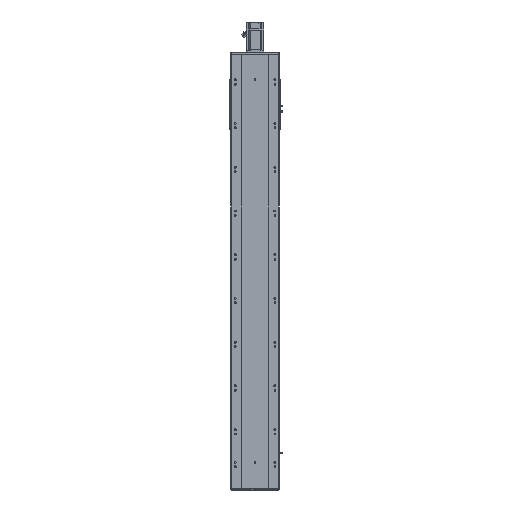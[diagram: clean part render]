
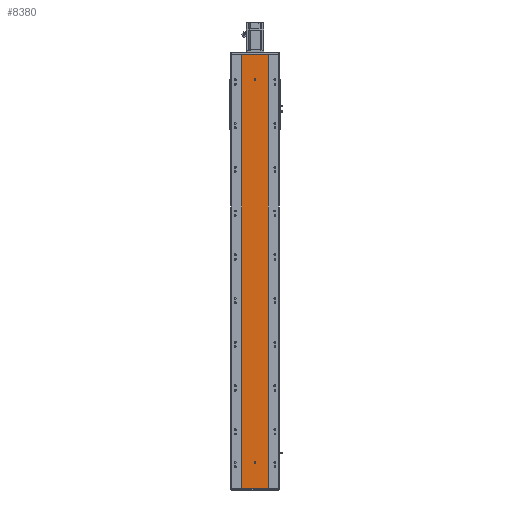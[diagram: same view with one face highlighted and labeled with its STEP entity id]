
A CAD part, front view. The second image highlights one B-rep face of the part: STEP entity #8380.
In plain terms, the highlighted planar face has unit normal (0, -1, 0).
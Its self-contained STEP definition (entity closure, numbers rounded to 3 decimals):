
#970 = CARTESIAN_POINT ( 'NONE',  ( 4., 0., 116.5 ) ) ;
#1834 = DIRECTION ( 'NONE',  ( 0., 0., 1. ) ) ;
#4101 = FACE_OUTER_BOUND ( 'NONE', #61796, .T. ) ;
#5149 = DIRECTION ( 'NONE',  ( 0., 0., -1. ) ) ;
#5590 = DIRECTION ( 'NONE',  ( 1., 0., 0. ) ) ;
#5859 = EDGE_CURVE ( 'NONE', #74085, #37022, #48317, .T. ) ;
#7005 = VERTEX_POINT ( 'NONE', #38565 ) ;
#7479 = VECTOR ( 'NONE', #56387, 1000. ) ;
#7788 = LINE ( 'NONE', #51695, #63812 ) ;
#8089 = EDGE_CURVE ( 'NONE', #44158, #9755, #46172, .T. ) ;
#8380 = ADVANCED_FACE ( 'NONE', ( #61981, #57298, #4101 ), #19830, .F. ) ;
#8423 = AXIS2_PLACEMENT_3D ( 'NONE', #35438, #17692, #41706 ) ;
#9224 = CARTESIAN_POINT ( 'NONE',  ( -4., 0., 119.5 ) ) ;
#9755 = VERTEX_POINT ( 'NONE', #32650 ) ;
#9949 = EDGE_LOOP ( 'NONE', ( #55175, #24450, #20601, #43583, #15801 ) ) ;
#10661 = CARTESIAN_POINT ( 'NONE',  ( -4., 0., 116.5 ) ) ;
#13322 = VERTEX_POINT ( 'NONE', #16173 ) ;
#13812 = DIRECTION ( 'NONE',  ( 0., 0., -1. ) ) ;
#15329 = EDGE_CURVE ( 'NONE', #37022, #74085, #36285, .T. ) ;
#15510 = LINE ( 'NONE', #59562, #53751 ) ;
#15801 = ORIENTED_EDGE ( 'NONE', *, *, #42321, .F. ) ;
#16173 = CARTESIAN_POINT ( 'NONE',  ( -60., 0., 0. ) ) ;
#16261 = LINE ( 'NONE', #64528, #26509 ) ;
#16839 = CARTESIAN_POINT ( 'NONE',  ( 60., 0., 0. ) ) ;
#17648 = AXIS2_PLACEMENT_3D ( 'NONE', #24654, #72180, #43439 ) ;
#17692 = DIRECTION ( 'NONE',  ( 0., -1., 0. ) ) ;
#19564 = CARTESIAN_POINT ( 'NONE',  ( -60., 0., 1982. ) ) ;
#19830 = PLANE ( 'NONE',  #26779 ) ;
#20601 = ORIENTED_EDGE ( 'NONE', *, *, #8089, .F. ) ;
#20878 = ORIENTED_EDGE ( 'NONE', *, *, #43534, .T. ) ;
#24450 = ORIENTED_EDGE ( 'NONE', *, *, #74762, .F. ) ;
#24654 = CARTESIAN_POINT ( 'NONE',  ( 0., 0., 1868. ) ) ;
#26016 = DIRECTION ( 'NONE',  ( 0., 0., -1. ) ) ;
#26509 = VECTOR ( 'NONE', #70274, 1000. ) ;
#26779 = AXIS2_PLACEMENT_3D ( 'NONE', #19564, #36811, #1834 ) ;
#29020 = DIRECTION ( 'NONE',  ( 0., -1., 0. ) ) ;
#32650 = CARTESIAN_POINT ( 'NONE',  ( 0., 0., 112.5 ) ) ;
#33046 = CARTESIAN_POINT ( 'NONE',  ( 0., 0., 119.5 ) ) ;
#33628 = ORIENTED_EDGE ( 'NONE', *, *, #5859, .F. ) ;
#33818 = EDGE_CURVE ( 'NONE', #37485, #40932, #70633, .T. ) ;
#35438 = CARTESIAN_POINT ( 'NONE',  ( 0., 0., 116.5 ) ) ;
#36285 = CIRCLE ( 'NONE', #59589, 4. ) ;
#36331 = CIRCLE ( 'NONE', #64671, 4. ) ;
#36811 = DIRECTION ( 'NONE',  ( 0., 1., 0. ) ) ;
#37022 = VERTEX_POINT ( 'NONE', #73463 ) ;
#37485 = VERTEX_POINT ( 'NONE', #71829 ) ;
#38032 = CARTESIAN_POINT ( 'NONE',  ( -4., 0., 116.5 ) ) ;
#38565 = CARTESIAN_POINT ( 'NONE',  ( -60., 0., 1982. ) ) ;
#38837 = VECTOR ( 'NONE', #5149, 1000. ) ;
#39478 = CARTESIAN_POINT ( 'NONE',  ( 0., 0., 1872. ) ) ;
#40932 = VERTEX_POINT ( 'NONE', #16839 ) ;
#41706 = DIRECTION ( 'NONE',  ( 0., 0., -1. ) ) ;
#42321 = EDGE_CURVE ( 'NONE', #63847, #46990, #36331, .T. ) ;
#43262 = AXIS2_PLACEMENT_3D ( 'NONE', #52457, #29020, #64003 ) ;
#43439 = DIRECTION ( 'NONE',  ( 0., 0., -1. ) ) ;
#43534 = EDGE_CURVE ( 'NONE', #7005, #13322, #44817, .T. ) ;
#43583 = ORIENTED_EDGE ( 'NONE', *, *, #47995, .F. ) ;
#44158 = VERTEX_POINT ( 'NONE', #10661 ) ;
#44296 = DIRECTION ( 'NONE',  ( 0., -1., 0. ) ) ;
#44654 = ORIENTED_EDGE ( 'NONE', *, *, #63194, .F. ) ;
#44746 = CARTESIAN_POINT ( 'NONE',  ( 4., 0., 119.5 ) ) ;
#44817 = LINE ( 'NONE', #67935, #7479 ) ;
#45975 = VERTEX_POINT ( 'NONE', #970 ) ;
#46172 = CIRCLE ( 'NONE', #43262, 4. ) ;
#46990 = VERTEX_POINT ( 'NONE', #9224 ) ;
#47995 = EDGE_CURVE ( 'NONE', #46990, #44158, #72210, .T. ) ;
#48317 = CIRCLE ( 'NONE', #17648, 4. ) ;
#49210 = CIRCLE ( 'NONE', #8423, 4. ) ;
#51001 = DIRECTION ( 'NONE',  ( 0., 0., -1. ) ) ;
#51167 = DIRECTION ( 'NONE',  ( 0., 0., 1. ) ) ;
#51437 = ORIENTED_EDGE ( 'NONE', *, *, #59715, .T. ) ;
#51695 = CARTESIAN_POINT ( 'NONE',  ( 4., 0., 116.5 ) ) ;
#52457 = CARTESIAN_POINT ( 'NONE',  ( 0., 0., 116.5 ) ) ;
#53751 = VECTOR ( 'NONE', #5590, 1000. ) ;
#54469 = EDGE_CURVE ( 'NONE', #45975, #63847, #7788, .T. ) ;
#55175 = ORIENTED_EDGE ( 'NONE', *, *, #54469, .F. ) ;
#56387 = DIRECTION ( 'NONE',  ( 0., 0., -1. ) ) ;
#57298 = FACE_BOUND ( 'NONE', #9949, .T. ) ;
#57960 = EDGE_LOOP ( 'NONE', ( #63865, #33628 ) ) ;
#59063 = VECTOR ( 'NONE', #26016, 1000. ) ;
#59562 = CARTESIAN_POINT ( 'NONE',  ( -60., 0., 0. ) ) ;
#59589 = AXIS2_PLACEMENT_3D ( 'NONE', #73837, #44296, #13812 ) ;
#59715 = EDGE_CURVE ( 'NONE', #13322, #40932, #15510, .T. ) ;
#61796 = EDGE_LOOP ( 'NONE', ( #51437, #62220, #44654, #20878 ) ) ;
#61981 = FACE_BOUND ( 'NONE', #57960, .T. ) ;
#62220 = ORIENTED_EDGE ( 'NONE', *, *, #33818, .F. ) ;
#63194 = EDGE_CURVE ( 'NONE', #7005, #37485, #16261, .T. ) ;
#63812 = VECTOR ( 'NONE', #51167, 1000. ) ;
#63847 = VERTEX_POINT ( 'NONE', #44746 ) ;
#63865 = ORIENTED_EDGE ( 'NONE', *, *, #15329, .F. ) ;
#64003 = DIRECTION ( 'NONE',  ( 0., 0., -1. ) ) ;
#64528 = CARTESIAN_POINT ( 'NONE',  ( -60., 0., 1982. ) ) ;
#64671 = AXIS2_PLACEMENT_3D ( 'NONE', #33046, #74832, #51001 ) ;
#67935 = CARTESIAN_POINT ( 'NONE',  ( -60., 0., 1982. ) ) ;
#70274 = DIRECTION ( 'NONE',  ( 1., 0., 0. ) ) ;
#70633 = LINE ( 'NONE', #76403, #38837 ) ;
#71829 = CARTESIAN_POINT ( 'NONE',  ( 60., 0., 1982. ) ) ;
#72180 = DIRECTION ( 'NONE',  ( 0., -1., 0. ) ) ;
#72210 = LINE ( 'NONE', #38032, #59063 ) ;
#73463 = CARTESIAN_POINT ( 'NONE',  ( 0., 0., 1864. ) ) ;
#73837 = CARTESIAN_POINT ( 'NONE',  ( 0., 0., 1868. ) ) ;
#74085 = VERTEX_POINT ( 'NONE', #39478 ) ;
#74762 = EDGE_CURVE ( 'NONE', #9755, #45975, #49210, .T. ) ;
#74832 = DIRECTION ( 'NONE',  ( 0., -1., 0. ) ) ;
#76403 = CARTESIAN_POINT ( 'NONE',  ( 60., 0., 1982. ) ) ;
